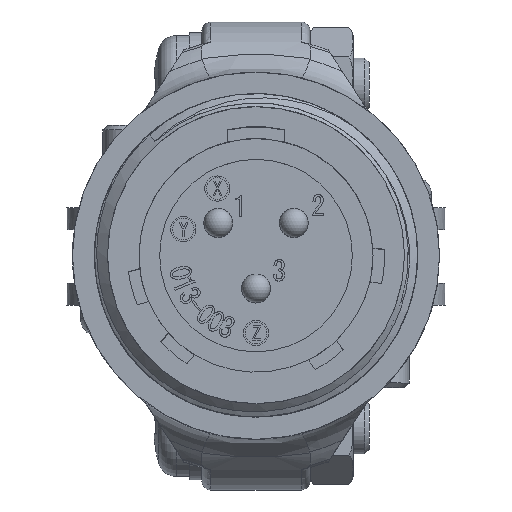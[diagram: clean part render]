
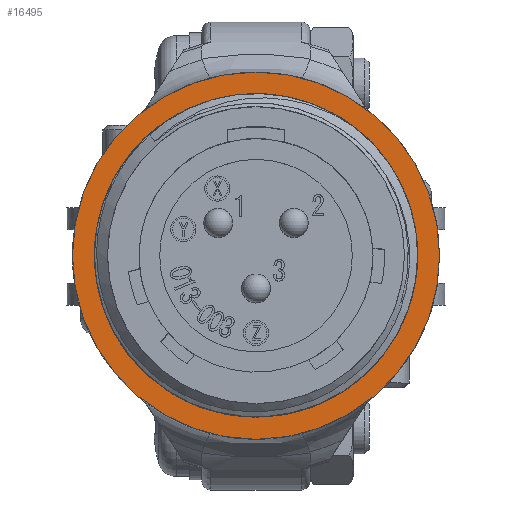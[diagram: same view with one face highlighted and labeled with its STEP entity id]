
A CAD part, top view. The second image highlights one B-rep face of the part: STEP entity #16495.
In plain terms, the highlighted planar face has unit normal (0, 0, 1).
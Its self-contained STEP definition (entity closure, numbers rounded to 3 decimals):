
#280 = ORIENTED_EDGE ( 'NONE', *, *, #7580, .T. ) ;
#438 = DIRECTION ( 'NONE',  ( 1., 0., 0. ) ) ;
#539 = CARTESIAN_POINT ( 'NONE',  ( 0., 0., -16.2 ) ) ;
#2296 = EDGE_LOOP ( 'NONE', ( #6937 ) ) ;
#2804 = DIRECTION ( 'NONE',  ( 0., 0., 1. ) ) ;
#2966 = CIRCLE ( 'NONE', #30002, 7.4 ) ;
#3263 = VERTEX_POINT ( 'NONE', #13352 ) ;
#5537 = EDGE_CURVE ( 'NONE', #3263, #3263, #2966, .T. ) ;
#6937 = ORIENTED_EDGE ( 'NONE', *, *, #5537, .T. ) ;
#7580 = EDGE_CURVE ( 'NONE', #28774, #28774, #22595, .T. ) ;
#8990 = AXIS2_PLACEMENT_3D ( 'NONE', #539, #22866, #438 ) ;
#13352 = CARTESIAN_POINT ( 'NONE',  ( 7.4, 0., -16.2 ) ) ;
#13661 = CARTESIAN_POINT ( 'NONE',  ( 10.2, 0., -16.2 ) ) ;
#15773 = CARTESIAN_POINT ( 'NONE',  ( 0., 0., -16.2 ) ) ;
#16495 = ADVANCED_FACE ( 'NONE', ( #31583, #20406 ), #29689, .T. ) ;
#18233 = DIRECTION ( 'NONE',  ( 0., 0., -1. ) ) ;
#18421 = AXIS2_PLACEMENT_3D ( 'NONE', #22768, #2804, #20432 ) ;
#20159 = DIRECTION ( 'NONE',  ( 1., 0., 0. ) ) ;
#20406 = FACE_BOUND ( 'NONE', #2296, .T. ) ;
#20432 = DIRECTION ( 'NONE',  ( 1., 0., 0. ) ) ;
#20573 = EDGE_LOOP ( 'NONE', ( #280 ) ) ;
#22595 = CIRCLE ( 'NONE', #8990, 10.2 ) ;
#22768 = CARTESIAN_POINT ( 'NONE',  ( 0., 0., -16.2 ) ) ;
#22866 = DIRECTION ( 'NONE',  ( 0., 0., 1. ) ) ;
#28774 = VERTEX_POINT ( 'NONE', #13661 ) ;
#29689 = PLANE ( 'NONE',  #18421 ) ;
#30002 = AXIS2_PLACEMENT_3D ( 'NONE', #15773, #18233, #20159 ) ;
#31583 = FACE_OUTER_BOUND ( 'NONE', #20573, .T. ) ;
